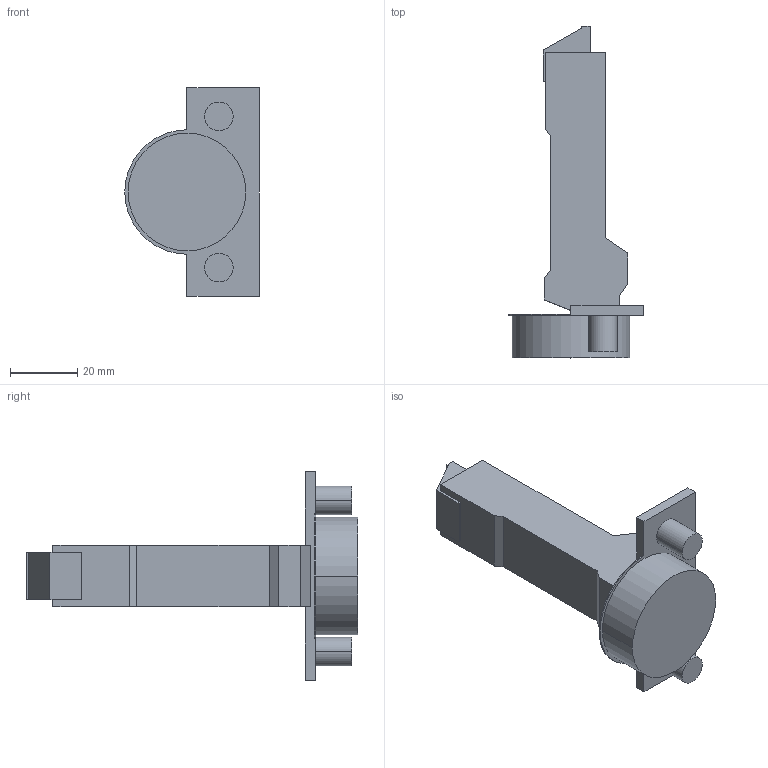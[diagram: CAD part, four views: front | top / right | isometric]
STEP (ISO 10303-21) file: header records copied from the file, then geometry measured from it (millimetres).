
FILE_DESCRIPTION (( 'STEP AP214' ), '1' );
FILE_NAME ('Scharnier TS Click-on 95° B_BB, K95_Dübel.step', '2018-10-02T12:11:42', ( '' ), ( '' ), 'SwSTEP 2.0', 'SolidWorks 2017', '' );
FILE_SCHEMA (( 'AUTOMOTIVE_DESIGN' ));
Length unit declared in the file: millimetre
Products named in the file (1): Scharnier TS Click-on 95° B_BB, K95_Dübel
Bounding box: 40 x 98.7 x 62 mm (x, y, z)
Volume: 43672 mm3; surface area: 12462.7 mm2
Topology: 1 solids, 1 shells, 56 faces, 138 edges, 92 vertices
Faces by surface type: plane 39, cylinder 17
Entity records: 1690 total; most frequent: CARTESIAN_POINT 287, DIRECTION 286, ORIENTED_EDGE 276, EDGE_CURVE 138, LINE 104, VECTOR 104, VERTEX_POINT 92, AXIS2_PLACEMENT_3D 91
